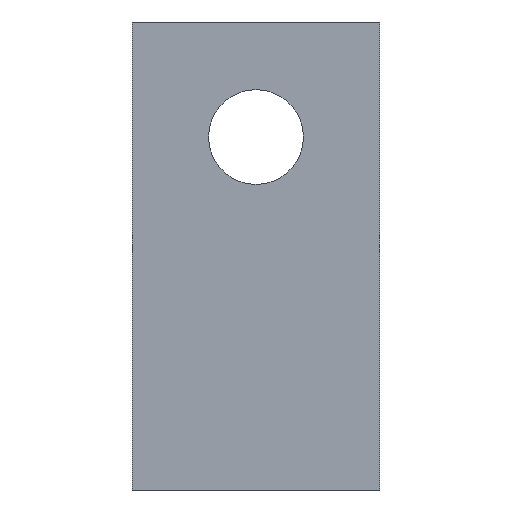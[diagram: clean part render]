
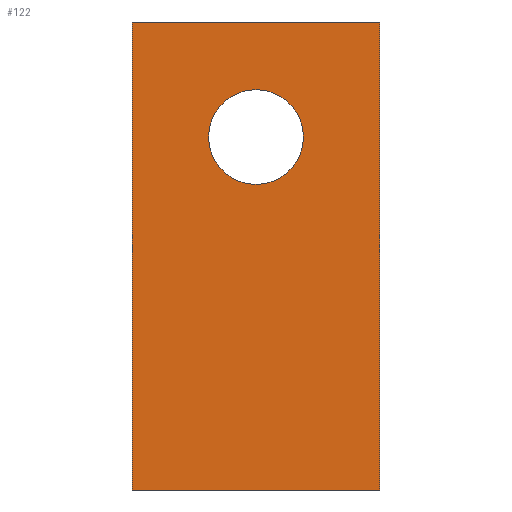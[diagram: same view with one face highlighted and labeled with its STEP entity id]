
A CAD part, front view. The second image highlights one B-rep face of the part: STEP entity #122.
In plain terms, the highlighted planar face has unit normal (0, -1, 0).
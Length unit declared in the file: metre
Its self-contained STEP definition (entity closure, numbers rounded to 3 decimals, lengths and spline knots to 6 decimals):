
#12=CIRCLE('',#141,0.017);
#33=ORIENTED_EDGE('',*,*,#53,.F.);
#34=ORIENTED_EDGE('',*,*,#45,.T.);
#35=ORIENTED_EDGE('',*,*,#49,.T.);
#36=ORIENTED_EDGE('',*,*,#52,.T.);
#37=ORIENTED_EDGE('',*,*,#56,.F.);
#45=EDGE_CURVE('',#60,#59,#69,.T.);
#49=EDGE_CURVE('',#59,#62,#73,.T.);
#52=EDGE_CURVE('',#62,#64,#76,.T.);
#53=EDGE_CURVE('',#65,#65,#12,.T.);
#56=EDGE_CURVE('',#60,#64,#78,.T.);
#59=VERTEX_POINT('',#184);
#60=VERTEX_POINT('',#186);
#62=VERTEX_POINT('',#192);
#64=VERTEX_POINT('',#198);
#65=VERTEX_POINT('',#202);
#69=LINE('',#185,#81);
#73=LINE('',#193,#85);
#76=LINE('',#199,#88);
#78=LINE('',#207,#90);
#81=VECTOR('',#152,1.);
#85=VECTOR('',#158,1.);
#88=VECTOR('',#163,1.);
#90=VECTOR('',#173,1.);
#97=EDGE_LOOP('',(#33));
#98=EDGE_LOOP('',(#34,#35,#36,#37));
#107=FACE_BOUND('',#97,.T.);
#108=FACE_BOUND('',#98,.T.);
#115=PLANE('',#144);
#122=ADVANCED_FACE('',(#107,#108),#115,.T.);
#141=AXIS2_PLACEMENT_3D('',#201,#166,#167);
#144=AXIS2_PLACEMENT_3D('',#208,#174,#175);
#152=DIRECTION('',(1.,0.,0.));
#158=DIRECTION('',(0.,0.,1.));
#163=DIRECTION('',(-1.,0.,0.));
#166=DIRECTION('',(0.,-1.,0.));
#167=DIRECTION('',(0.,0.,-1.));
#173=DIRECTION('',(0.,0.,1.));
#174=DIRECTION('',(0.,-1.,0.));
#175=DIRECTION('',(1.,0.,0.));
#184=CARTESIAN_POINT('',(0.04445,-0.0254,-0.12665));
#185=CARTESIAN_POINT('',(0.,-0.0254,-0.12665));
#186=CARTESIAN_POINT('',(-0.04445,-0.0254,-0.12665));
#192=CARTESIAN_POINT('',(0.04445,-0.0254,0.041275));
#193=CARTESIAN_POINT('',(0.04445,-0.0254,-0.042688));
#198=CARTESIAN_POINT('',(-0.04445,-0.0254,0.041275));
#199=CARTESIAN_POINT('',(0.,-0.0254,0.041275));
#201=CARTESIAN_POINT('',(0.,-0.0254,0.));
#202=CARTESIAN_POINT('',(0.,-0.0254,-0.017));
#207=CARTESIAN_POINT('',(-0.04445,-0.0254,-0.042688));
#208=CARTESIAN_POINT('',(0.,-0.0254,-0.042688));
